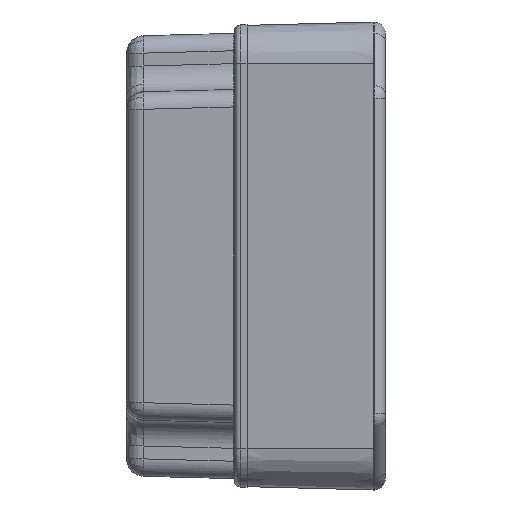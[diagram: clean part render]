
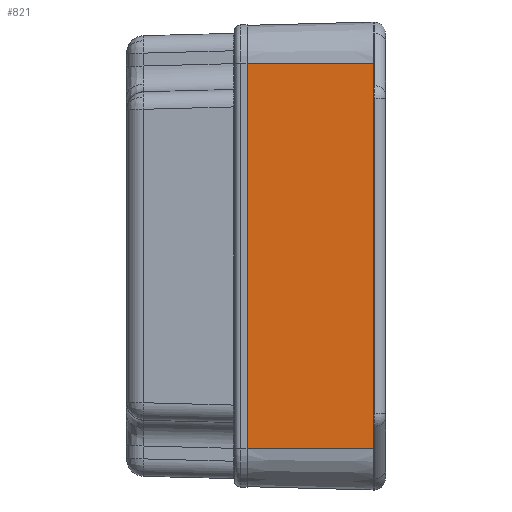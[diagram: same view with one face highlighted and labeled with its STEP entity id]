
A CAD part, left-side view. The second image highlights one B-rep face of the part: STEP entity #821.
In plain terms, the highlighted planar face has unit normal (-1, 0.026, 0).
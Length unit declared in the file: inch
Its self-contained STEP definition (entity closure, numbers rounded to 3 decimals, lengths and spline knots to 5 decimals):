
#212 = ORIENTED_EDGE ( 'NONE', *, *, #4396, .T. ) ;
#814 = EDGE_CURVE ( 'NONE', #14773, #17782, #11148, .T. ) ;
#821 = ADVANCED_FACE ( 'NONE', ( #19866 ), #26452, .T. ) ;
#2031 = VERTEX_POINT ( 'NONE', #13389 ) ;
#4396 = EDGE_CURVE ( 'NONE', #27677, #2031, #13559, .T. ) ;
#4576 = CARTESIAN_POINT ( 'NONE',  ( -4.125, 0., -2.0834 ) ) ;
#4711 = CARTESIAN_POINT ( 'NONE',  ( -4.125, 0., -2.0834 ) ) ;
#5758 = CARTESIAN_POINT ( 'NONE',  ( -4.125, 0., -2.0834 ) ) ;
#7283 = DIRECTION ( 'NONE',  ( 0., 0., 1. ) ) ;
#7390 = EDGE_CURVE ( 'NONE', #2031, #17782, #16917, .T. ) ;
#8052 = LINE ( 'NONE', #27205, #11540 ) ;
#8593 = DIRECTION ( 'NONE',  ( 0., 0., 1. ) ) ;
#9842 = CARTESIAN_POINT ( 'NONE',  ( -4.125, 0., 2.0834 ) ) ;
#9899 = VECTOR ( 'NONE', #7283, 39.37008 ) ;
#10116 = AXIS2_PLACEMENT_3D ( 'NONE', #4711, #13429, #26025 ) ;
#10435 = VECTOR ( 'NONE', #12482, 39.37008 ) ;
#11148 = LINE ( 'NONE', #4576, #18781 ) ;
#11315 = CARTESIAN_POINT ( 'NONE',  ( -4.16101, -1.375, -2.0834 ) ) ;
#11540 = VECTOR ( 'NONE', #21066, 39.37008 ) ;
#12482 = DIRECTION ( 'NONE',  ( 0.026, 1., 0. ) ) ;
#13389 = CARTESIAN_POINT ( 'NONE',  ( -4.16101, -1.375, 2.0834 ) ) ;
#13429 = DIRECTION ( 'NONE',  ( -1., 0.026, 0. ) ) ;
#13559 = LINE ( 'NONE', #26576, #9899 ) ;
#14773 = VERTEX_POINT ( 'NONE', #5758 ) ;
#15018 = ORIENTED_EDGE ( 'NONE', *, *, #814, .F. ) ;
#16917 = LINE ( 'NONE', #21219, #10435 ) ;
#17012 = EDGE_CURVE ( 'NONE', #27677, #14773, #8052, .T. ) ;
#17782 = VERTEX_POINT ( 'NONE', #9842 ) ;
#18781 = VECTOR ( 'NONE', #8593, 39.37008 ) ;
#19866 = FACE_OUTER_BOUND ( 'NONE', #28044, .T. ) ;
#21066 = DIRECTION ( 'NONE',  ( 0.026, 1., 0. ) ) ;
#21219 = CARTESIAN_POINT ( 'NONE',  ( -4.125, 0., 2.0834 ) ) ;
#26025 = DIRECTION ( 'NONE',  ( -0.026, -1., 0. ) ) ;
#26184 = ORIENTED_EDGE ( 'NONE', *, *, #17012, .F. ) ;
#26452 = PLANE ( 'NONE',  #10116 ) ;
#26576 = CARTESIAN_POINT ( 'NONE',  ( -4.16101, -1.375, 2.0834 ) ) ;
#26616 = ORIENTED_EDGE ( 'NONE', *, *, #7390, .T. ) ;
#27205 = CARTESIAN_POINT ( 'NONE',  ( -4.125, 0., -2.0834 ) ) ;
#27677 = VERTEX_POINT ( 'NONE', #11315 ) ;
#28044 = EDGE_LOOP ( 'NONE', ( #15018, #26184, #212, #26616 ) ) ;
